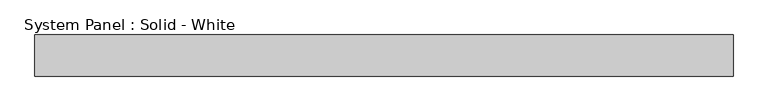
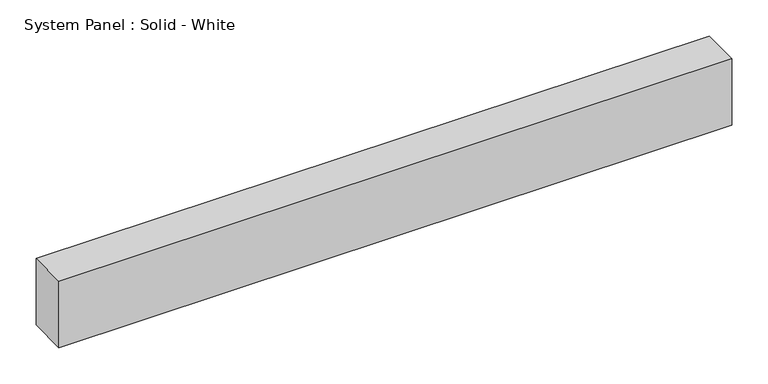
"""IFC4 building model written with IfcOpenShell, lengths in millimetres: plate geometry, System Panel : Solid - White."""

from ifc_helpers import new_model, si_unit, origin, origin_with_axes, place, context, project, spatial, polyline, outline, extrude, source, transform, mapped, element, save


def system_panel_solid_white_86a2738e(model_context):
    return source(origin(), model_context, "Body", "SweptSolid", [
        extrude(outline(polyline([(538.48, -19.05), (-538.48, -19.05), (-538.48, 44.45), (538.48, 44.45), (538.48, -19.05)])), origin_with_axes(), (0.0, 0.0, 1.0), 112.476362),
    ])


if __name__ == "__main__":
    model = new_model("IFC4")
    model_context = context("Model", 3, world=origin())
    ifc_project = project(units=[si_unit("LENGTHUNIT", "METRE", prefix="MILLI")], contexts=[model_context])
    site = spatial("IfcSite", under=ifc_project)
    building = spatial("IfcBuilding", under=site)
    placement = place(None, origin())
    system_panel_solid_white_shape = system_panel_solid_white_86a2738e(model_context)
    element("IfcPlate", 1, ObjectType="System Panel : Solid - White", at=placement, inside=building, context=model_context, shape_type="MappedRepresentation", body=[
        mapped(system_panel_solid_white_shape, transform((0.0, 0.0, 0.0), x_axis=(1.0, 0.0, 0.0), y_axis=(0.0, 1.0, 0.0), z_axis=(0.0, 0.0, 1.0))),
    ])
    save(model, "model.ifc")
